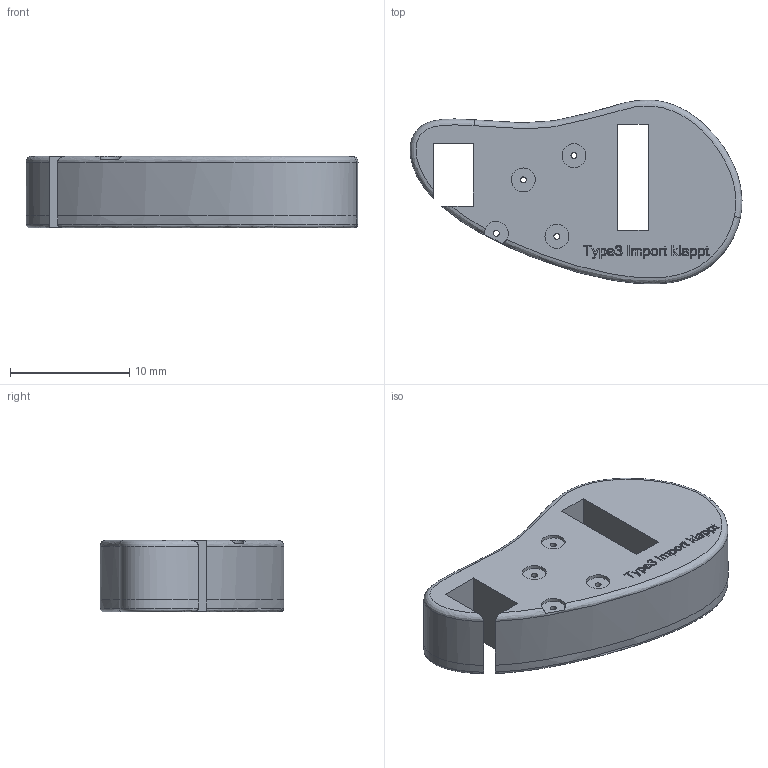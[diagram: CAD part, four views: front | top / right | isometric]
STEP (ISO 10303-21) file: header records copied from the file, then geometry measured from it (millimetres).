
FILE_DESCRIPTION(/* description */ ('Alibre Inc.'),/* implementation_level */ '2;1');
FILE_NAME(/* name */ 'export0',/* time_stamp */ '2010-01-15T16:11:56+01:00',/* author */ (''),/* organization */ (''),/* preprocessor_version */ 'ST-DEVELOPER v10',/* originating_system */ 'Alibre',/* authorisation */ '');
FILE_SCHEMA (('ALIBRE_SCHEMA','CONFIG_CONTROL_DESIGN'));
Length unit declared in the file: millimetre
Products named in the file (1): ID_1
Bounding box: 27.81 x 15.4 x 6 mm (x, y, z)
Volume: 1618.9 mm3; surface area: 1215.2 mm2
Topology: 1 solids, 1 shells, 327 faces, 892 edges, 594 vertices
Faces by surface type: bspline 165, plane 154, cylinder 8
Full cylindrical faces by diameter (mm): 0.5 x4, 2 x3
Entity records: 13715 total; most frequent: CARTESIAN_POINT 5209, ORIENTED_EDGE 1774, EDGE_CURVE 887, DIRECTION 858, PERSISTANTTOPOLOGYATTRIBUTE 669, VECTOR 639, LINE 624, VERTEX_POINT 594
